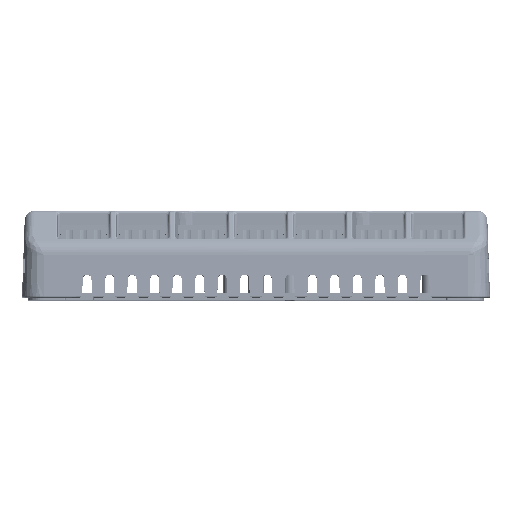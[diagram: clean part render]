
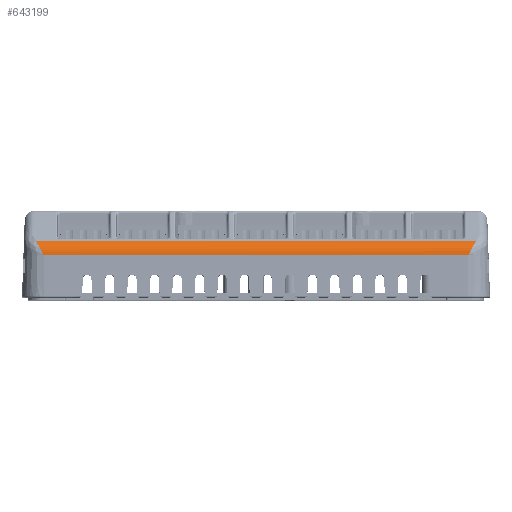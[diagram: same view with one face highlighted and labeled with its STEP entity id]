
A CAD part, top view. The second image highlights one B-rep face of the part: STEP entity #643199.
In plain terms, the highlighted cylindrical face has radius 5.08 mm (diameter 10.16 mm), a partial arc.
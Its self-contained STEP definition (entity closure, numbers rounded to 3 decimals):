
#2122 = CARTESIAN_POINT ( 'NONE',  ( 57.546, 2.822, 43.358 ) ) ;
#10385 = EDGE_CURVE ( 'NONE', #457084, #256743, #257358, .T. ) ;
#12702 = CARTESIAN_POINT ( 'NONE',  ( -59.361, 6.144, 41.983 ) ) ;
#15051 = CARTESIAN_POINT ( 'NONE',  ( -57.546, 2.822, 43.358 ) ) ;
#24593 = ORIENTED_EDGE ( 'NONE', *, *, #10385, .F. ) ;
#25999 = ORIENTED_EDGE ( 'NONE', *, *, #666557, .T. ) ;
#68393 = CARTESIAN_POINT ( 'NONE',  ( -59.037, 5.561, 42.444 ) ) ;
#87035 = DIRECTION ( 'NONE',  ( 0., 0., -1. ) ) ;
#93156 = VECTOR ( 'NONE', #637714, 1000. ) ;
#113444 = CARTESIAN_POINT ( 'NONE',  ( 58.32, 4.251, 43.114 ) ) ;
#123961 = CARTESIAN_POINT ( 'NONE',  ( -58.777, 5.088, 42.738 ) ) ;
#136676 = VERTEX_POINT ( 'NONE', #616657 ) ;
#141470 = B_SPLINE_CURVE_WITH_KNOTS ( 'NONE', 3,
 ( #288161, #343644, #12702, #399085, #68393, #454724, #123961, #510393, #179484, #565920, #234996, #621487, #290521, #677005, #346016, #15051 ),
 .UNSPECIFIED., .F., .F.,
 ( 4, 2, 2, 2, 2, 2, 2, 4 ),
 ( 0., 0.001, 0.002, 0.002, 0.004, 0.004, 0.005, 0.005 ),
 .UNSPECIFIED. ) ;
#156650 = EDGE_LOOP ( 'NONE', ( #24593, #375211, #562142, #25999 ) ) ;
#168915 = CARTESIAN_POINT ( 'NONE',  ( 58.777, 5.089, 42.738 ) ) ;
#169884 = CARTESIAN_POINT ( 'NONE',  ( 59.65, 6.648, 41.408 ) ) ;
#179484 = CARTESIAN_POINT ( 'NONE',  ( -58.32, 4.251, 43.114 ) ) ;
#208477 = B_SPLINE_CURVE_WITH_KNOTS ( 'NONE', 3,
 ( #2122, #222116, #444175, #113444, #499830, #168915, #555328, #224513, #610884, #279968, #666426, #335473 ),
 .UNSPECIFIED., .F., .F.,
 ( 4, 2, 2, 2, 2, 4 ),
 ( 0., 0.001, 0.002, 0.003, 0.004, 0.005 ),
 .UNSPECIFIED. ) ;
#222116 = CARTESIAN_POINT ( 'NONE',  ( 57.742, 3.185, 43.345 ) ) ;
#224513 = CARTESIAN_POINT ( 'NONE',  ( 59.037, 5.562, 42.444 ) ) ;
#228013 = CARTESIAN_POINT ( 'NONE',  ( 59.626, 6.648, 41.408 ) ) ;
#234996 = CARTESIAN_POINT ( 'NONE',  ( -57.936, 3.543, 43.284 ) ) ;
#256743 = VERTEX_POINT ( 'NONE', #632431 ) ;
#257358 = LINE ( 'NONE', #301969, #93156 ) ;
#279968 = CARTESIAN_POINT ( 'NONE',  ( 59.361, 6.144, 41.983 ) ) ;
#288161 = CARTESIAN_POINT ( 'NONE',  ( -59.65, 6.648, 41.408 ) ) ;
#290521 = CARTESIAN_POINT ( 'NONE',  ( -57.742, 3.184, 43.333 ) ) ;
#297336 = VECTOR ( 'NONE', #614465, 1000. ) ;
#301969 = CARTESIAN_POINT ( 'NONE',  ( 59.626, 2.822, 43.358 ) ) ;
#315786 = EDGE_CURVE ( 'NONE', #136676, #551375, #591222, .T. ) ;
#335473 = CARTESIAN_POINT ( 'NONE',  ( 59.65, 6.648, 41.408 ) ) ;
#343644 = CARTESIAN_POINT ( 'NONE',  ( -59.511, 6.409, 41.714 ) ) ;
#346016 = CARTESIAN_POINT ( 'NONE',  ( -57.595, 2.911, 43.355 ) ) ;
#368623 = CYLINDRICAL_SURFACE ( 'NONE', #645265, 5.08 ) ;
#375211 = ORIENTED_EDGE ( 'NONE', *, *, #475294, .T. ) ;
#399085 = CARTESIAN_POINT ( 'NONE',  ( -59.12, 5.711, 42.335 ) ) ;
#417851 = CARTESIAN_POINT ( 'NONE',  ( 59.626, 2.645, 38.281 ) ) ;
#444175 = CARTESIAN_POINT ( 'NONE',  ( 57.937, 3.545, 43.294 ) ) ;
#454724 = CARTESIAN_POINT ( 'NONE',  ( -58.865, 5.25, 42.646 ) ) ;
#457084 = VERTEX_POINT ( 'NONE', #685074 ) ;
#475294 = EDGE_CURVE ( 'NONE', #457084, #551375, #208477, .T. ) ;
#499830 = CARTESIAN_POINT ( 'NONE',  ( 58.506, 4.595, 42.986 ) ) ;
#510393 = CARTESIAN_POINT ( 'NONE',  ( -58.506, 4.594, 42.986 ) ) ;
#551375 = VERTEX_POINT ( 'NONE', #169884 ) ;
#555328 = CARTESIAN_POINT ( 'NONE',  ( 58.866, 5.25, 42.646 ) ) ;
#562142 = ORIENTED_EDGE ( 'NONE', *, *, #315786, .F. ) ;
#565920 = CARTESIAN_POINT ( 'NONE',  ( -58.033, 3.722, 43.249 ) ) ;
#567656 = FACE_OUTER_BOUND ( 'NONE', #156650, .T. ) ;
#582158 = DIRECTION ( 'NONE',  ( 1., 0., 0. ) ) ;
#591222 = LINE ( 'NONE', #228013, #297336 ) ;
#610884 = CARTESIAN_POINT ( 'NONE',  ( 59.12, 5.711, 42.335 ) ) ;
#614465 = DIRECTION ( 'NONE',  ( 1., 0., 0. ) ) ;
#616657 = CARTESIAN_POINT ( 'NONE',  ( -59.65, 6.648, 41.408 ) ) ;
#621487 = CARTESIAN_POINT ( 'NONE',  ( -57.79, 3.274, 43.323 ) ) ;
#632431 = CARTESIAN_POINT ( 'NONE',  ( -57.546, 2.822, 43.358 ) ) ;
#637714 = DIRECTION ( 'NONE',  ( -1., 0., 0. ) ) ;
#643199 = ADVANCED_FACE ( 'NONE', ( #567656 ), #368623, .T. ) ;
#645265 = AXIS2_PLACEMENT_3D ( 'NONE', #417851, #582158, #87035 ) ;
#666426 = CARTESIAN_POINT ( 'NONE',  ( 59.511, 6.409, 41.714 ) ) ;
#666557 = EDGE_CURVE ( 'NONE', #136676, #256743, #141470, .T. ) ;
#677005 = CARTESIAN_POINT ( 'NONE',  ( -57.644, 3.003, 43.349 ) ) ;
#685074 = CARTESIAN_POINT ( 'NONE',  ( 57.546, 2.822, 43.358 ) ) ;
